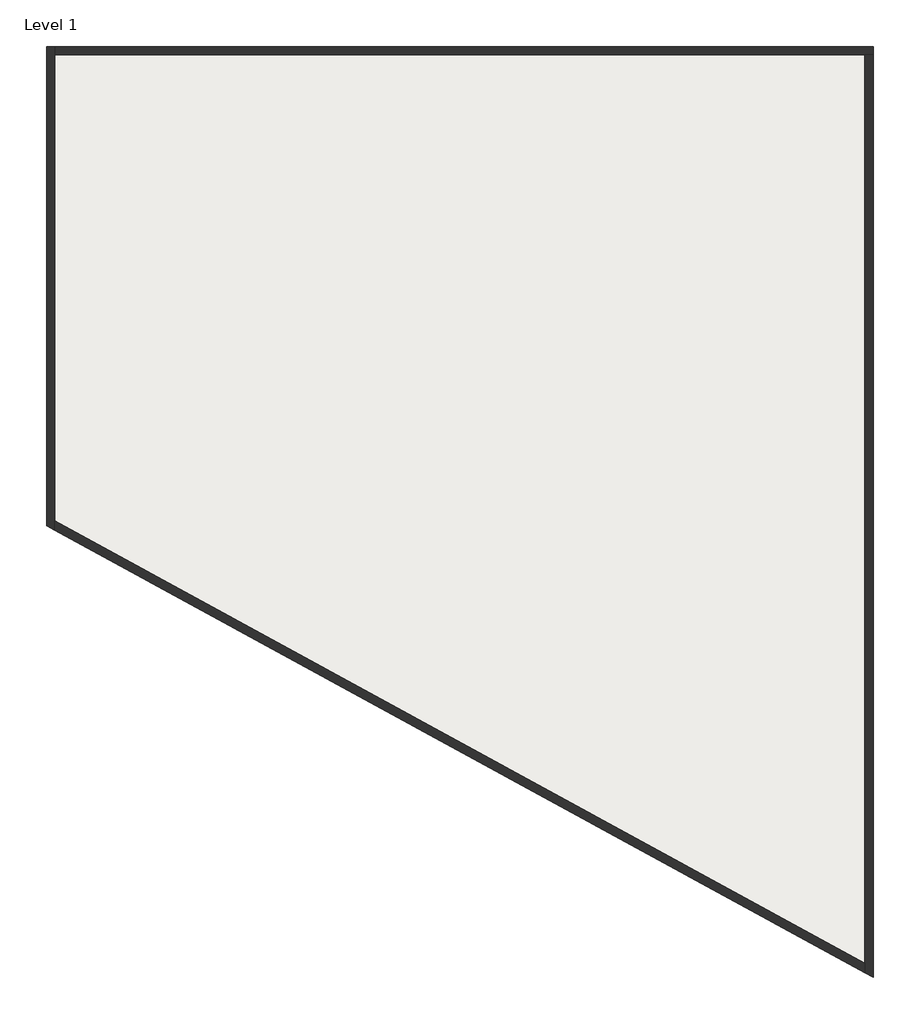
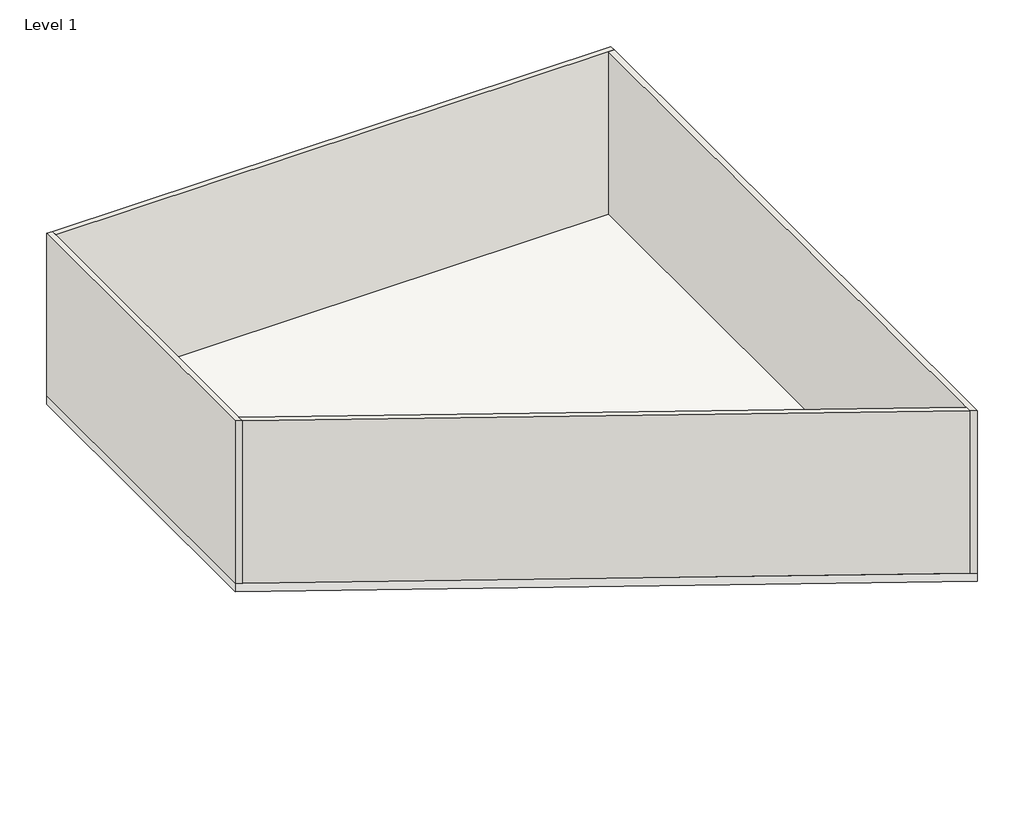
# One storey: 4 walls, 1 slab.
"""IFC4 building model written with IfcOpenShell, lengths in millimetres."""

from ifc_helpers import new_model, si_unit, frame, origin, origin_with_axes, place, context, project, spatial, polyline, outline, extrude, faceted_brep, element, save

model = new_model("IFC4")

# Units and contexts
model_context = context("Model", 3, world=origin())
ifc_project = project(units=[si_unit("LENGTHUNIT", "METRE", prefix="MILLI")], contexts=[model_context])

# Site, building, storey
site = spatial("IfcSite", under=ifc_project)
building = spatial("IfcBuilding", under=site)
storey = spatial("IfcBuildingStorey", under=building, Name="Level 1", Elevation=0.0)

# Slab
placement = place(None, origin())
element("IfcSlab", 1, ObjectType="Generic - 12\"", at=placement, inside=storey, context=model_context, shape_type="SweptSolid", body=[
    extrude(outline(polyline([(-11588.3731069, 11040.2055131), (8426.8268931, 11040.2055131), (8426.8268931, -11483.0490611), (-11588.3731069, -551.6705995), (-11588.3731069, 11040.2055131)])), frame((0.0, 0.0, -304.8), z_axis=(0.0, 0.0, 1.0), x_axis=(1.0, 0.0, 0.0)), (0.0, 0.0, 1.0), 304.8),
])

# Walls
element("IfcWall", 2, ObjectType="Generic - 8\"", at=placement, inside=storey, context=model_context, shape_type="Brep", body=[
    faceted_brep([(-11385.1731069, -662.6490611, 0.0), (-11385.1731069, -431.1183743, 0.0), (-11385.1731069, 10837.0055131, 0.0), (-11385.1731069, 11040.2055131, 0.0), (-11385.1731069, 11040.2055131, 6096.0), (-11385.1731069, 10837.0055131, 6096.0), (-11385.1731069, -431.1183743, 6096.0), (-11385.1731069, -662.6490611, 6096.0), (-11588.3731069, -551.6705995, 0.0), (-11588.3731069, -551.6705995, 6096.0), (-11588.3731069, 11040.2055131, 6096.0), (-11588.3731069, 11040.2055131, 0.0)], [[[0, 1, 2, 3, 4, 5, 6, 7]], [[8, 9, 10, 11]], [[3, 2, 1, 0, 8, 11]], [[7, 6, 5, 4, 10, 9]], [[4, 3, 11, 10]], [[0, 7, 9, 8]]]),
])
element("IfcWall", 3, ObjectType="Generic - 8\"", at=placement, inside=storey, context=model_context, shape_type="Brep", body=[
    faceted_brep([(-11385.1731069, 10837.0055131, 0.0), (8223.6268931, 10837.0055131, 0.0), (8426.8268931, 10837.0055131, 0.0), (8426.8268931, 10837.0055131, 6096.0), (8223.6268931, 10837.0055131, 6096.0), (-11385.1731069, 10837.0055131, 6096.0), (-11385.1731069, 11040.2055131, 0.0), (-11385.1731069, 11040.2055131, 6096.0), (8426.8268931, 11040.2055131, 6096.0), (8426.8268931, 11040.2055131, 0.0)], [[[0, 1, 2, 3, 4, 5]], [[6, 7, 8, 9]], [[2, 1, 0, 6, 9]], [[5, 4, 3, 8, 7]], [[0, 5, 7, 6]], [[3, 2, 9, 8]]]),
])
element("IfcWall", 4, ObjectType="Generic - 8\"", at=placement, inside=storey, context=model_context, shape_type="Brep", body=[
    faceted_brep([(8223.6268931, 10837.0055131, 0.0), (8223.6268931, -11140.5399127, 0.0), (8223.6268931, -11372.0705995, 0.0), (8223.6268931, -11372.0705995, 6096.0), (8223.6268931, -11140.5399127, 6096.0), (8223.6268931, 10837.0055131, 6096.0), (8426.8268931, 10837.0055131, 0.0), (8426.8268931, 10837.0055131, 6096.0), (8426.8268931, -11483.0490611, 6096.0), (8426.8268931, -11483.0490611, 0.0)], [[[0, 1, 2, 3, 4, 5]], [[6, 7, 8, 9]], [[2, 1, 0, 6, 9]], [[5, 4, 3, 8, 7]], [[0, 5, 7, 6]], [[3, 2, 9, 8]]]),
])
element("IfcWall", 5, ObjectType="Generic - 8\"", at=placement, inside=storey, context=model_context, shape_type="SweptSolid", body=[
    extrude(outline(polyline([(-11385.1731069, -431.1183743), (8223.6268931, -11140.5399127), (8223.6268931, -11372.0705995), (-11385.1731069, -662.6490611), (-11385.1731069, -431.1183743)])), origin_with_axes(), (0.0, 0.0, 1.0), 6096.0),
])

save(model, "model.ifc")
